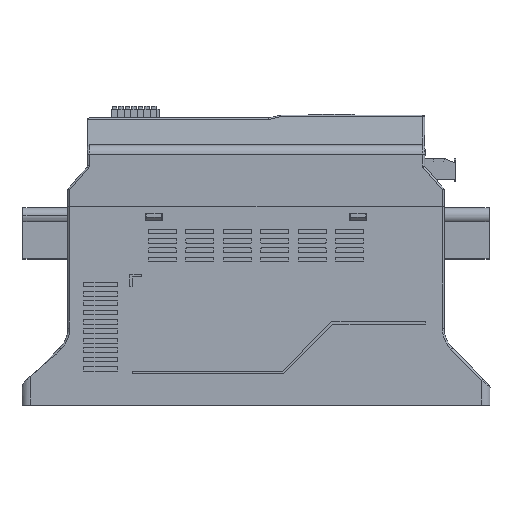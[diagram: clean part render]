
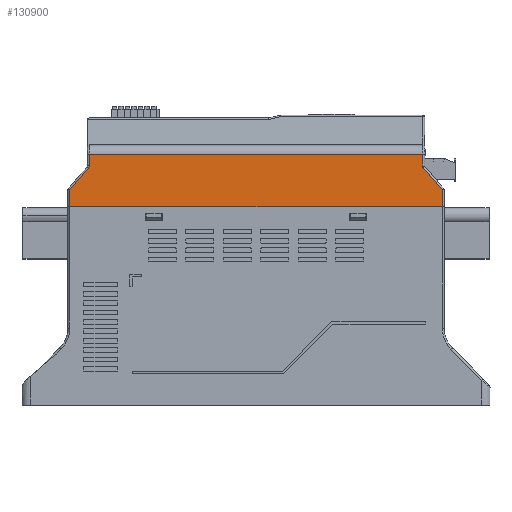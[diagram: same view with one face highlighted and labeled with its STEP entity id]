
A CAD part, top view. The second image highlights one B-rep face of the part: STEP entity #130900.
In plain terms, the highlighted planar face has unit normal (0, 0, 1).
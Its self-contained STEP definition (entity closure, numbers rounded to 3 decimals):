
#3859 = ORIENTED_EDGE ( 'NONE', *, *, #109764, .F. ) ;
#4585 = DIRECTION ( 'NONE',  ( 1., 0., 0. ) ) ;
#6098 = DIRECTION ( 'NONE',  ( 0.655, -0.756, 0. ) ) ;
#7137 = LINE ( 'NONE', #138598, #89032 ) ;
#11131 = DIRECTION ( 'NONE',  ( 0., -1., 0. ) ) ;
#12731 = CARTESIAN_POINT ( 'NONE',  ( -89.11, 2.5, 105. ) ) ;
#15235 = DIRECTION ( 'NONE',  ( 0., 1., 0. ) ) ;
#18318 = CARTESIAN_POINT ( 'NONE',  ( 177.07, -105.962, 105. ) ) ;
#20792 = CARTESIAN_POINT ( 'NONE',  ( -89.32, -4.551, 105. ) ) ;
#23053 = CARTESIAN_POINT ( 'NONE',  ( -120.5, -25.5, 105. ) ) ;
#23775 = CARTESIAN_POINT ( 'NONE',  ( 89.11, -4.373, 105. ) ) ;
#24948 = ORIENTED_EDGE ( 'NONE', *, *, #157536, .T. ) ;
#25292 = EDGE_CURVE ( 'NONE', #160353, #86114, #91279, .T. ) ;
#25962 = DIRECTION ( 'NONE',  ( -1., 0., 0. ) ) ;
#36437 = CARTESIAN_POINT ( 'NONE',  ( 0., 2.5, 105. ) ) ;
#36859 = AXIS2_PLACEMENT_3D ( 'NONE', #110812, #99426, #4585 ) ;
#40404 = CARTESIAN_POINT ( 'NONE',  ( -89.11, -3.627, 105. ) ) ;
#42794 = CARTESIAN_POINT ( 'NONE',  ( 99.5, 0., 105. ) ) ;
#44432 = LINE ( 'NONE', #18318, #144100 ) ;
#46046 = CARTESIAN_POINT ( 'NONE',  ( 99.5, -16.373, 105. ) ) ;
#46323 = FACE_OUTER_BOUND ( 'NONE', #76932, .T. ) ;
#46897 = CARTESIAN_POINT ( 'NONE',  ( -89.598, -4.936, 105. ) ) ;
#47743 = LINE ( 'NONE', #101697, #68951 ) ;
#61667 = ORIENTED_EDGE ( 'NONE', *, *, #104383, .F. ) ;
#62540 = CARTESIAN_POINT ( 'NONE',  ( -89.11, -3.627, 105. ) ) ;
#64003 = ORIENTED_EDGE ( 'NONE', *, *, #126583, .T. ) ;
#66111 = ORIENTED_EDGE ( 'NONE', *, *, #81042, .F. ) ;
#66602 = VECTOR ( 'NONE', #25962, 1000. ) ;
#68951 = VECTOR ( 'NONE', #11131, 1000. ) ;
#70774 = PLANE ( 'NONE',  #36859 ) ;
#71336 = EDGE_CURVE ( 'NONE', #102372, #113769, #96251, .T. ) ;
#76238 = CARTESIAN_POINT ( 'NONE',  ( 89.11, 2.5, 105. ) ) ;
#76704 = VERTEX_POINT ( 'NONE', #23775 ) ;
#76932 = EDGE_LOOP ( 'NONE', ( #166405, #24948, #61667, #64003, #66111, #3859, #147105, #79758, #85629 ) ) ;
#78908 = B_SPLINE_CURVE_WITH_KNOTS ( 'NONE', 3,
 ( #62540, #142612, #113094, #20792, #115672, #46897 ),
 .UNSPECIFIED., .F., .F.,
 ( 4, 2, 4 ),
 ( 0., 0.5, 1. ),
 .UNSPECIFIED. ) ;
#79758 = ORIENTED_EDGE ( 'NONE', *, *, #149820, .F. ) ;
#81042 = EDGE_CURVE ( 'NONE', #76704, #147203, #44432, .T. ) ;
#85629 = ORIENTED_EDGE ( 'NONE', *, *, #120067, .T. ) ;
#86114 = VERTEX_POINT ( 'NONE', #12731 ) ;
#86768 = VERTEX_POINT ( 'NONE', #137798 ) ;
#89032 = VECTOR ( 'NONE', #127264, 1000. ) ;
#91279 = LINE ( 'NONE', #36437, #66602 ) ;
#94512 = DIRECTION ( 'NONE',  ( -0.655, -0.756, 0. ) ) ;
#96251 = LINE ( 'NONE', #163236, #153858 ) ;
#99426 = DIRECTION ( 'NONE',  ( 0., 0., 1. ) ) ;
#101167 = CARTESIAN_POINT ( 'NONE',  ( -89.598, -4.936, 105. ) ) ;
#101697 = CARTESIAN_POINT ( 'NONE',  ( -99.5, 0., 105. ) ) ;
#102372 = VERTEX_POINT ( 'NONE', #101167 ) ;
#104383 = EDGE_CURVE ( 'NONE', #86768, #135515, #130115, .T. ) ;
#109764 = EDGE_CURVE ( 'NONE', #160353, #76704, #7137, .T. ) ;
#110812 = CARTESIAN_POINT ( 'NONE',  ( 0., 0., 105. ) ) ;
#112147 = VECTOR ( 'NONE', #15235, 1000. ) ;
#113094 = CARTESIAN_POINT ( 'NONE',  ( -89.152, -4.101, 105. ) ) ;
#113769 = VERTEX_POINT ( 'NONE', #131904 ) ;
#115672 = CARTESIAN_POINT ( 'NONE',  ( -89.441, -4.754, 105. ) ) ;
#117087 = DIRECTION ( 'NONE',  ( -1., 0., 0. ) ) ;
#120067 = EDGE_CURVE ( 'NONE', #162197, #102372, #78908, .T. ) ;
#124564 = LINE ( 'NONE', #42794, #132279 ) ;
#126583 = EDGE_CURVE ( 'NONE', #86768, #147203, #124564, .T. ) ;
#127264 = DIRECTION ( 'NONE',  ( 0., -1., 0. ) ) ;
#130115 = LINE ( 'NONE', #23053, #163416 ) ;
#130900 = ADVANCED_FACE ( 'NONE', ( #46323 ), #70774, .T. ) ;
#131904 = CARTESIAN_POINT ( 'NONE',  ( -99.5, -16.373, 105. ) ) ;
#132279 = VECTOR ( 'NONE', #150668, 1000. ) ;
#135515 = VERTEX_POINT ( 'NONE', #142150 ) ;
#137798 = CARTESIAN_POINT ( 'NONE',  ( 99.5, -25.5, 105. ) ) ;
#138598 = CARTESIAN_POINT ( 'NONE',  ( 89.11, -105.962, 105. ) ) ;
#142150 = CARTESIAN_POINT ( 'NONE',  ( -99.5, -25.5, 105. ) ) ;
#142612 = CARTESIAN_POINT ( 'NONE',  ( -89.11, -3.867, 105. ) ) ;
#144100 = VECTOR ( 'NONE', #6098, 1000. ) ;
#146639 = LINE ( 'NONE', #160578, #112147 ) ;
#147105 = ORIENTED_EDGE ( 'NONE', *, *, #25292, .T. ) ;
#147203 = VERTEX_POINT ( 'NONE', #46046 ) ;
#149820 = EDGE_CURVE ( 'NONE', #162197, #86114, #146639, .T. ) ;
#150668 = DIRECTION ( 'NONE',  ( 0., 1., 0. ) ) ;
#153858 = VECTOR ( 'NONE', #94512, 1000. ) ;
#157536 = EDGE_CURVE ( 'NONE', #113769, #135515, #47743, .T. ) ;
#160353 = VERTEX_POINT ( 'NONE', #76238 ) ;
#160578 = CARTESIAN_POINT ( 'NONE',  ( -89.11, 2.918, 105. ) ) ;
#162197 = VERTEX_POINT ( 'NONE', #40404 ) ;
#163236 = CARTESIAN_POINT ( 'NONE',  ( -89.598, -4.936, 105. ) ) ;
#163416 = VECTOR ( 'NONE', #117087, 1000. ) ;
#166405 = ORIENTED_EDGE ( 'NONE', *, *, #71336, .T. ) ;
